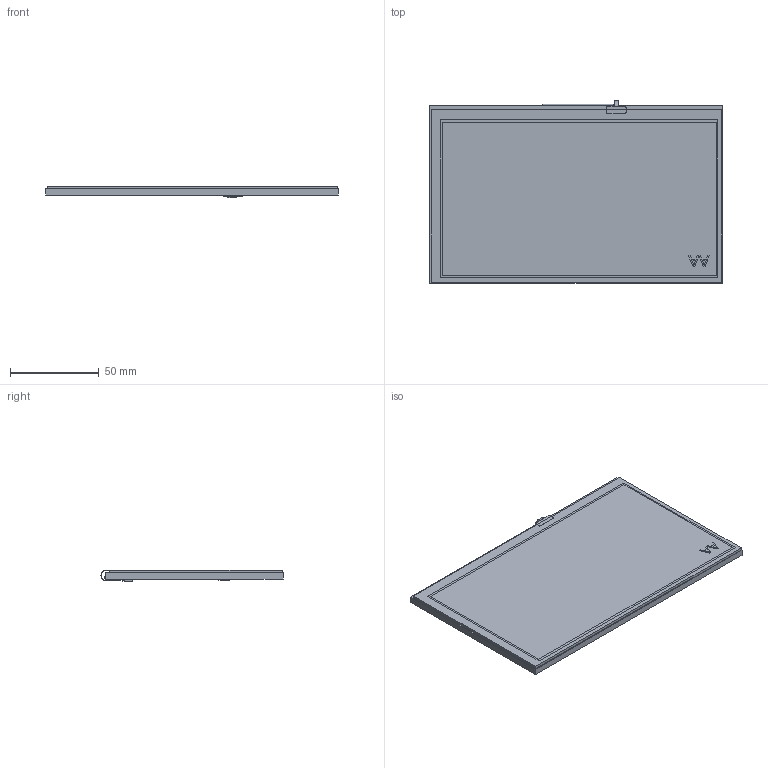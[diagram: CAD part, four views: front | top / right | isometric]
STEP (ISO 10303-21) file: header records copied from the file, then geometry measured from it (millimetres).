
FILE_DESCRIPTION(/* description */ (''),/* implementation_level */ '2;1');
FILE_NAME(/* name */ '',/* time_stamp */ '2022-03-01T19:59:15+08:00',/* author */ (''),/* organization */ (''),/* preprocessor_version */ 'ST-DEVELOPER v11',/* originating_system */ 'SIEMENS PLM Software NX 7.5',/* authorisation */ '');
FILE_SCHEMA (('AP203_CONFIGURATION_CONTROLLED_3D_DESIGN_OF_MECHANICAL_PARTS_AND_ASSEMBLIES_MIM_LF'));
Length unit declared in the file: millimetre
Products named in the file (1): b070T63V03T
Bounding box: 164.9 x 102.71 x 6.63 mm (x, y, z)
Volume: 82532.9 mm3; surface area: 105475.8 mm2
Topology: 33 solids, 33 shells, 281 faces, 638 edges, 425 vertices
Faces by surface type: plane 257, cylinder 20, extrusion 4
Entity records: 9716 total; most frequent: CARTESIAN_POINT 1393, ORIENTED_EDGE 1276, DIRECTION 1230, EDGE_CURVE 638, VECTOR 594, LINE 590, VERTEX_POINT 424, AXIS2_PLACEMENT_3D 318
